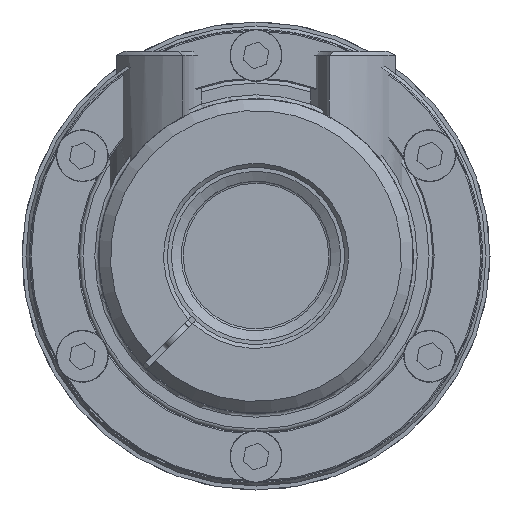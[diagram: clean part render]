
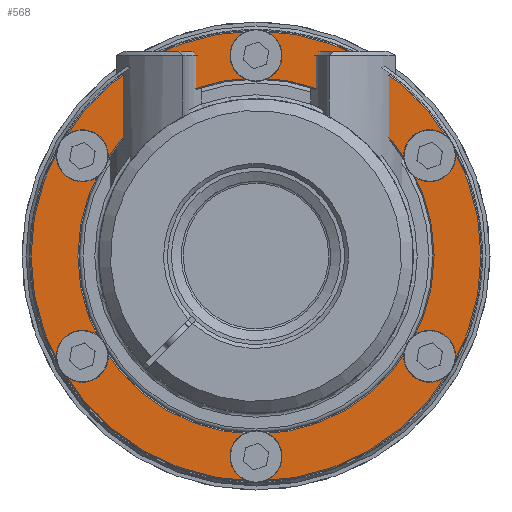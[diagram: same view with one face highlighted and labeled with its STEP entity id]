
A CAD part, left-side view. The second image highlights one B-rep face of the part: STEP entity #568.
In plain terms, the highlighted planar face has unit normal (-1, 0, 0).
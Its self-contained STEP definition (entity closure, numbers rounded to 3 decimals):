
#568 = ADVANCED_FACE( '', ( #1184, #1185, #1186, #1187, #1188, #1189, #1190, #1191 ), #1192, .F. );
#1184 = FACE_OUTER_BOUND( '', #2260, .T. );
#1185 = FACE_BOUND( '', #2261, .T. );
#1186 = FACE_BOUND( '', #2262, .T. );
#1187 = FACE_BOUND( '', #2263, .T. );
#1188 = FACE_BOUND( '', #2264, .T. );
#1189 = FACE_BOUND( '', #2265, .T. );
#1190 = FACE_BOUND( '', #2266, .T. );
#1191 = FACE_BOUND( '', #2267, .T. );
#1192 = PLANE( '', #2268 );
#2260 = EDGE_LOOP( '', ( #3672 ) );
#2261 = EDGE_LOOP( '', ( #3673 ) );
#2262 = EDGE_LOOP( '', ( #3674 ) );
#2263 = EDGE_LOOP( '', ( #3675 ) );
#2264 = EDGE_LOOP( '', ( #3676 ) );
#2265 = EDGE_LOOP( '', ( #3677 ) );
#2266 = EDGE_LOOP( '', ( #3678 ) );
#2267 = EDGE_LOOP( '', ( #3679 ) );
#2268 = AXIS2_PLACEMENT_3D( '', #3680, #3681, #3682 );
#3672 = ORIENTED_EDGE( '', *, *, #6120, .T. );
#3673 = ORIENTED_EDGE( '', *, *, #6123, .T. );
#3674 = ORIENTED_EDGE( '', *, *, #6124, .T. );
#3675 = ORIENTED_EDGE( '', *, *, #6125, .T. );
#3676 = ORIENTED_EDGE( '', *, *, #6126, .T. );
#3677 = ORIENTED_EDGE( '', *, *, #6127, .T. );
#3678 = ORIENTED_EDGE( '', *, *, #6128, .T. );
#3679 = ORIENTED_EDGE( '', *, *, #6122, .T. );
#3680 = CARTESIAN_POINT( '', ( -21., 57.5, 0. ) );
#3681 = DIRECTION( '', ( 1., 0., 0. ) );
#3682 = DIRECTION( '', ( 0., 1., 0. ) );
#6120 = EDGE_CURVE( '', #7061, #7061, #7062, .T. );
#6122 = EDGE_CURVE( '', #7065, #7065, #7066, .T. );
#6123 = EDGE_CURVE( '', #7067, #7067, #7068, .T. );
#6124 = EDGE_CURVE( '', #7069, #7069, #7070, .T. );
#6125 = EDGE_CURVE( '', #7071, #7071, #7072, .T. );
#6126 = EDGE_CURVE( '', #7073, #7073, #7074, .T. );
#6127 = EDGE_CURVE( '', #7075, #7075, #7076, .T. );
#6128 = EDGE_CURVE( '', #7077, #7077, #7078, .T. );
#7061 = VERTEX_POINT( '', #8543 );
#7062 = CIRCLE( '', #8544, 57.2 );
#7065 = VERTEX_POINT( '', #8547 );
#7066 = CIRCLE( '', #8548, 3.324 );
#7067 = VERTEX_POINT( '', #8549 );
#7068 = CIRCLE( '', #8550, 45.3 );
#7069 = VERTEX_POINT( '', #8551 );
#7070 = CIRCLE( '', #8552, 3.324 );
#7071 = VERTEX_POINT( '', #8553 );
#7072 = CIRCLE( '', #8554, 3.324 );
#7073 = VERTEX_POINT( '', #8555 );
#7074 = CIRCLE( '', #8556, 3.324 );
#7075 = VERTEX_POINT( '', #8557 );
#7076 = CIRCLE( '', #8558, 3.324 );
#7077 = VERTEX_POINT( '', #8559 );
#7078 = CIRCLE( '', #8560, 3.324 );
#8543 = CARTESIAN_POINT( '', ( -21., 0., -57.2 ) );
#8544 = AXIS2_PLACEMENT_3D( '', #11163, #11164, #11165 );
#8547 = CARTESIAN_POINT( '', ( -21., 0., 54.324 ) );
#8548 = AXIS2_PLACEMENT_3D( '', #11169, #11170, #11171 );
#8549 = CARTESIAN_POINT( '', ( -21., 0., -45.3 ) );
#8550 = AXIS2_PLACEMENT_3D( '', #11172, #11173, #11174 );
#8551 = CARTESIAN_POINT( '', ( -21., 47.046, 27.162 ) );
#8552 = AXIS2_PLACEMENT_3D( '', #11175, #11176, #11177 );
#8553 = CARTESIAN_POINT( '', ( -21., 47.046, -27.162 ) );
#8554 = AXIS2_PLACEMENT_3D( '', #11178, #11179, #11180 );
#8555 = CARTESIAN_POINT( '', ( -21., 0., -54.324 ) );
#8556 = AXIS2_PLACEMENT_3D( '', #11181, #11182, #11183 );
#8557 = CARTESIAN_POINT( '', ( -21., -47.046, -27.162 ) );
#8558 = AXIS2_PLACEMENT_3D( '', #11184, #11185, #11186 );
#8559 = CARTESIAN_POINT( '', ( -21., -47.046, 27.162 ) );
#8560 = AXIS2_PLACEMENT_3D( '', #11187, #11188, #11189 );
#11163 = CARTESIAN_POINT( '', ( -21., 0., 0. ) );
#11164 = DIRECTION( '', ( -1., 0., 0. ) );
#11165 = DIRECTION( '', ( 0., 0., -1. ) );
#11169 = CARTESIAN_POINT( '', ( -21., 0., 51. ) );
#11170 = DIRECTION( '', ( 1., 0., 0. ) );
#11171 = DIRECTION( '', ( 0., 0., 1. ) );
#11172 = CARTESIAN_POINT( '', ( -21., 0., 0. ) );
#11173 = DIRECTION( '', ( 1., 0., 0. ) );
#11174 = DIRECTION( '', ( 0., 0., -1. ) );
#11175 = CARTESIAN_POINT( '', ( -21., 44.167, 25.5 ) );
#11176 = DIRECTION( '', ( 1., 0., 0. ) );
#11177 = DIRECTION( '', ( 0., 0.866, 0.5 ) );
#11178 = CARTESIAN_POINT( '', ( -21., 44.167, -25.5 ) );
#11179 = DIRECTION( '', ( 1., 0., 0. ) );
#11180 = DIRECTION( '', ( 0., 0.866, -0.5 ) );
#11181 = CARTESIAN_POINT( '', ( -21., 0., -51. ) );
#11182 = DIRECTION( '', ( 1., 0., 0. ) );
#11183 = DIRECTION( '', ( 0., 0., -1. ) );
#11184 = CARTESIAN_POINT( '', ( -21., -44.167, -25.5 ) );
#11185 = DIRECTION( '', ( 1., 0., 0. ) );
#11186 = DIRECTION( '', ( 0., -0.866, -0.5 ) );
#11187 = CARTESIAN_POINT( '', ( -21., -44.167, 25.5 ) );
#11188 = DIRECTION( '', ( 1., 0., 0. ) );
#11189 = DIRECTION( '', ( 0., -0.866, 0.5 ) );
